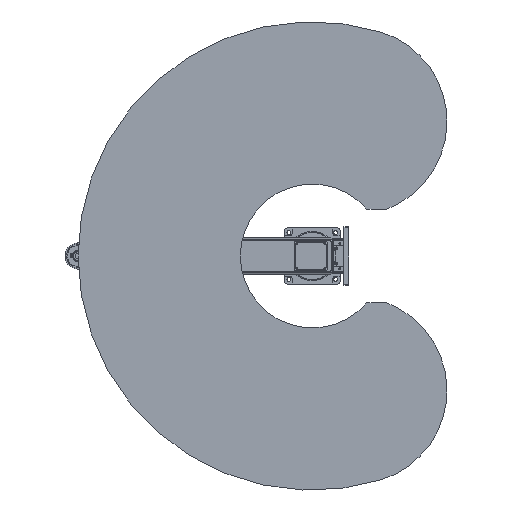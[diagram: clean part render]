
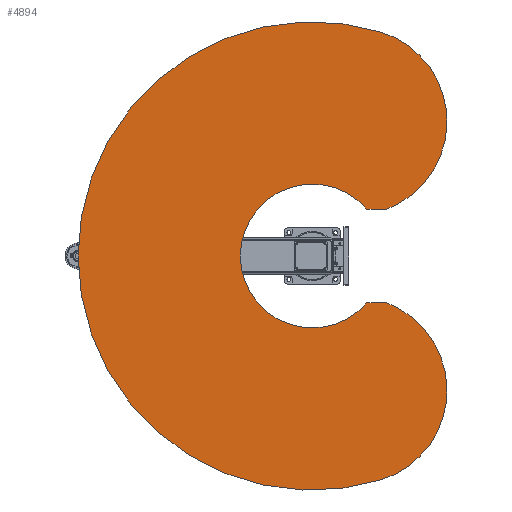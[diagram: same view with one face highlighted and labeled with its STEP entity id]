
A CAD part, front view. The second image highlights one B-rep face of the part: STEP entity #4894.
In plain terms, the highlighted planar face has unit normal (0, -1, 0).
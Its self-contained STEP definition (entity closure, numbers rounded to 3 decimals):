
#4894 = ADVANCED_FACE( '', ( #11626 ), #11627, .F. );
#11626 = FACE_OUTER_BOUND( '', #21142, .T. );
#11627 = PLANE( '', #21143 );
#21142 = EDGE_LOOP( '', ( #35825, #35826, #35827, #35828, #35829, #35830 ) );
#21143 = AXIS2_PLACEMENT_3D( '', #35831, #35832, #35833 );
#35825 = ORIENTED_EDGE( '', *, *, #52714, .F. );
#35826 = ORIENTED_EDGE( '', *, *, #52964, .F. );
#35827 = ORIENTED_EDGE( '', *, *, #52965, .T. );
#35828 = ORIENTED_EDGE( '', *, *, #48920, .F. );
#35829 = ORIENTED_EDGE( '', *, *, #52966, .F. );
#35830 = ORIENTED_EDGE( '', *, *, #52967, .F. );
#35831 = CARTESIAN_POINT( '', ( 573.783, 0., 175.423 ) );
#35832 = DIRECTION( '', ( 0., 1., 0. ) );
#35833 = DIRECTION( '', ( 0., 0., 1. ) );
#48920 = EDGE_CURVE( '', #57564, #57565, #57566, .T. );
#52714 = EDGE_CURVE( '', #63755, #63756, #63757, .T. );
#52964 = EDGE_CURVE( '', #64114, #63755, #64115, .T. );
#52965 = EDGE_CURVE( '', #64114, #57565, #64116, .T. );
#52966 = EDGE_CURVE( '', #64117, #57564, #64118, .T. );
#52967 = EDGE_CURVE( '', #63756, #64117, #64119, .T. );
#57564 = VERTEX_POINT( '', #70213 );
#57565 = VERTEX_POINT( '', #70214 );
#57566 = LINE( '', #70215, #70216 );
#63755 = VERTEX_POINT( '', #80474 );
#63756 = VERTEX_POINT( '', #80475 );
#63757 = CIRCLE( '', #80476, 400. );
#64114 = VERTEX_POINT( '', #81137 );
#64115 = LINE( '', #81138, #81139 );
#64116 = CIRCLE( '', #81140, 307. );
#64117 = VERTEX_POINT( '', #81141 );
#64118 = CIRCLE( '', #81142, 400. );
#64119 = CIRCLE( '', #81143, 1000. );
#70213 = CARTESIAN_POINT( '', ( -200., 0., 317.853 ) );
#70214 = CARTESIAN_POINT( '', ( -200., 0., 232.914 ) );
#70215 = CARTESIAN_POINT( '', ( -200., 0., 317.853 ) );
#70216 = VECTOR( '', #88945, 1000. );
#80474 = CARTESIAN_POINT( '', ( 200., 0., 317.853 ) );
#80475 = CARTESIAN_POINT( '', ( 956.305, 0., 292.372 ) );
#80476 = AXIS2_PLACEMENT_3D( '', #93709, #93710, #93711 );
#81137 = CARTESIAN_POINT( '', ( 200., 0., 232.914 ) );
#81138 = CARTESIAN_POINT( '', ( 200., 0., 232.914 ) );
#81139 = VECTOR( '', #93981, 1000. );
#81140 = AXIS2_PLACEMENT_3D( '', #93982, #93983, #93984 );
#81141 = CARTESIAN_POINT( '', ( -956.305, 0., 292.372 ) );
#81142 = AXIS2_PLACEMENT_3D( '', #93985, #93986, #93987 );
#81143 = AXIS2_PLACEMENT_3D( '', #93988, #93989, #93990 );
#88945 = DIRECTION( '', ( 0., 0., -1. ) );
#93709 = CARTESIAN_POINT( '', ( 573.783, 0., 175.423 ) );
#93710 = DIRECTION( '', ( 0., 1., 0. ) );
#93711 = DIRECTION( '', ( 1., 0., 0. ) );
#93981 = DIRECTION( '', ( 0., 0., 1. ) );
#93982 = CARTESIAN_POINT( '', ( 0., 0., 0. ) );
#93983 = DIRECTION( '', ( 0., 1., 0. ) );
#93984 = DIRECTION( '', ( 1., 0., 0. ) );
#93985 = CARTESIAN_POINT( '', ( -573.783, 0., 175.423 ) );
#93986 = DIRECTION( '', ( 0., 1., 0. ) );
#93987 = DIRECTION( '', ( 1., 0., 0. ) );
#93988 = CARTESIAN_POINT( '', ( 0., 0., 0. ) );
#93989 = DIRECTION( '', ( 0., 1., 0. ) );
#93990 = DIRECTION( '', ( 1., 0., 0. ) );
